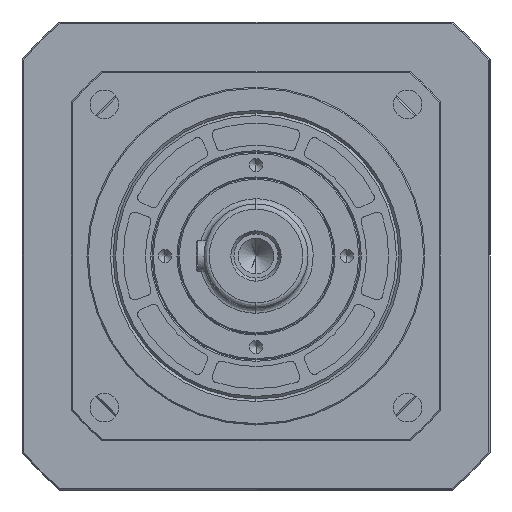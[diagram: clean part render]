
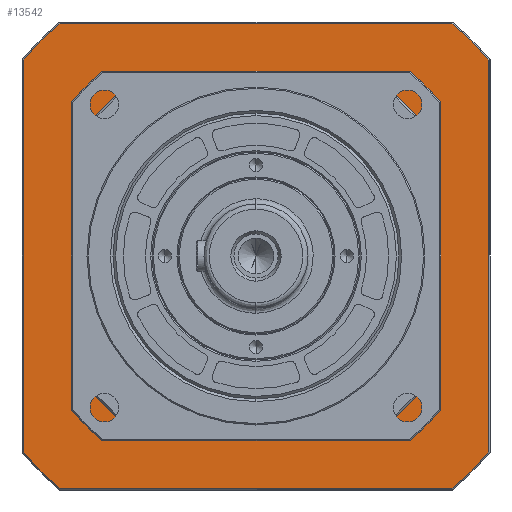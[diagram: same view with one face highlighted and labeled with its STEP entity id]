
A CAD part, left-side view. The second image highlights one B-rep face of the part: STEP entity #13542.
In plain terms, the highlighted planar face has unit normal (-1, 0, 0).
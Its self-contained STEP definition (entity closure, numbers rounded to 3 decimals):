
#399 = CARTESIAN_POINT ( 'NONE',  ( 0., 0., -63. ) ) ;
#1054 = AXIS2_PLACEMENT_3D ( 'NONE', #18819, #15720, #15652 ) ;
#1110 = VECTOR ( 'NONE', #2402, 1000. ) ;
#1215 = PLANE ( 'NONE',  #4472 ) ;
#1338 = DIRECTION ( 'NONE',  ( 1., 0., 0. ) ) ;
#1515 = EDGE_CURVE ( 'NONE', #12077, #11573, #17968, .T. ) ;
#1528 = LINE ( 'NONE', #19096, #9620 ) ;
#1639 = EDGE_CURVE ( 'NONE', #18547, #7468, #14431, .T. ) ;
#1847 = VERTEX_POINT ( 'NONE', #399 ) ;
#1963 = AXIS2_PLACEMENT_3D ( 'NONE', #10053, #14632, #2479 ) ;
#2286 = DIRECTION ( 'NONE',  ( 0., -1., 0. ) ) ;
#2331 = VERTEX_POINT ( 'NONE', #16119 ) ;
#2380 = CIRCLE ( 'NONE', #7528, 63. ) ;
#2402 = DIRECTION ( 'NONE',  ( 0., 0., -1. ) ) ;
#2479 = DIRECTION ( 'NONE',  ( 0., 0., 1. ) ) ;
#2869 = DIRECTION ( 'NONE',  ( 0., 0., 1. ) ) ;
#3196 = EDGE_LOOP ( 'NONE', ( #9366, #17588 ) ) ;
#3368 = CARTESIAN_POINT ( 'NONE',  ( 0., 75.357, -89.5 ) ) ;
#3477 = ORIENTED_EDGE ( 'NONE', *, *, #1639, .F. ) ;
#4427 = VERTEX_POINT ( 'NONE', #19345 ) ;
#4472 = AXIS2_PLACEMENT_3D ( 'NONE', #10117, #7254, #8655 ) ;
#5018 = VECTOR ( 'NONE', #2286, 1000. ) ;
#5294 = VECTOR ( 'NONE', #17555, 1000. ) ;
#5449 = EDGE_CURVE ( 'NONE', #19604, #6011, #17519, .T. ) ;
#5644 = AXIS2_PLACEMENT_3D ( 'NONE', #16408, #1338, #13250 ) ;
#5880 = LINE ( 'NONE', #17612, #1110 ) ;
#6011 = VERTEX_POINT ( 'NONE', #9521 ) ;
#6068 = CARTESIAN_POINT ( 'NONE',  ( 0., -75.357, -89.5 ) ) ;
#7254 = DIRECTION ( 'NONE',  ( -1., 0., 0. ) ) ;
#7456 = DIRECTION ( 'NONE',  ( 1., 0., 0. ) ) ;
#7468 = VERTEX_POINT ( 'NONE', #6068 ) ;
#7528 = AXIS2_PLACEMENT_3D ( 'NONE', #16689, #7456, #2869 ) ;
#7615 = FACE_OUTER_BOUND ( 'NONE', #10423, .T. ) ;
#7863 = FACE_BOUND ( 'NONE', #3196, .T. ) ;
#8480 = DIRECTION ( 'NONE',  ( 0., 1., 0. ) ) ;
#8638 = ORIENTED_EDGE ( 'NONE', *, *, #9937, .F. ) ;
#8655 = DIRECTION ( 'NONE',  ( 0., 0., 1. ) ) ;
#9009 = CIRCLE ( 'NONE', #16498, 117. ) ;
#9051 = CARTESIAN_POINT ( 'NONE',  ( 0., 0., 0. ) ) ;
#9366 = ORIENTED_EDGE ( 'NONE', *, *, #15687, .T. ) ;
#9442 = AXIS2_PLACEMENT_3D ( 'NONE', #9051, #18193, #15017 ) ;
#9521 = CARTESIAN_POINT ( 'NONE',  ( 0., -75.357, 89.5 ) ) ;
#9620 = VECTOR ( 'NONE', #8480, 1000. ) ;
#9794 = LINE ( 'NONE', #13133, #5294 ) ;
#9937 = EDGE_CURVE ( 'NONE', #4427, #19604, #11041, .T. ) ;
#10029 = EDGE_CURVE ( 'NONE', #7468, #12077, #1528, .T. ) ;
#10053 = CARTESIAN_POINT ( 'NONE',  ( 0., 0., 0. ) ) ;
#10117 = CARTESIAN_POINT ( 'NONE',  ( 0., 90., -90. ) ) ;
#10423 = EDGE_LOOP ( 'NONE', ( #12391, #8638, #14997, #17192, #12744, #3477, #11369, #17084 ) ) ;
#11041 = CIRCLE ( 'NONE', #1054, 117. ) ;
#11369 = ORIENTED_EDGE ( 'NONE', *, *, #15756, .F. ) ;
#11573 = VERTEX_POINT ( 'NONE', #15521 ) ;
#11628 = CARTESIAN_POINT ( 'NONE',  ( 0., -90., 89.5 ) ) ;
#11745 = CARTESIAN_POINT ( 'NONE',  ( 0., 75.357, 89.5 ) ) ;
#11990 = CARTESIAN_POINT ( 'NONE',  ( 0., -89.5, -75.357 ) ) ;
#12077 = VERTEX_POINT ( 'NONE', #3368 ) ;
#12391 = ORIENTED_EDGE ( 'NONE', *, *, #5449, .F. ) ;
#12631 = CARTESIAN_POINT ( 'NONE',  ( 0., 0., 63. ) ) ;
#12744 = ORIENTED_EDGE ( 'NONE', *, *, #10029, .F. ) ;
#12820 = CARTESIAN_POINT ( 'NONE',  ( 0., 0., 0. ) ) ;
#13133 = CARTESIAN_POINT ( 'NONE',  ( 0., 89.5, 90. ) ) ;
#13250 = DIRECTION ( 'NONE',  ( 0., 0., -1. ) ) ;
#13542 = ADVANCED_FACE ( 'NONE', ( #7863, #7615 ), #1215, .T. ) ;
#13628 = EDGE_CURVE ( 'NONE', #1847, #16637, #2380, .T. ) ;
#14142 = CIRCLE ( 'NONE', #1963, 63. ) ;
#14431 = CIRCLE ( 'NONE', #9442, 117. ) ;
#14454 = EDGE_CURVE ( 'NONE', #6011, #2331, #9009, .T. ) ;
#14632 = DIRECTION ( 'NONE',  ( 1., 0., 0. ) ) ;
#14997 = ORIENTED_EDGE ( 'NONE', *, *, #19583, .F. ) ;
#15017 = DIRECTION ( 'NONE',  ( 0., 0., -1. ) ) ;
#15521 = CARTESIAN_POINT ( 'NONE',  ( 0., 89.5, -75.357 ) ) ;
#15652 = DIRECTION ( 'NONE',  ( 0., 0., -1. ) ) ;
#15687 = EDGE_CURVE ( 'NONE', #16637, #1847, #14142, .T. ) ;
#15720 = DIRECTION ( 'NONE',  ( 1., 0., 0. ) ) ;
#15756 = EDGE_CURVE ( 'NONE', #2331, #18547, #5880, .T. ) ;
#15839 = DIRECTION ( 'NONE',  ( 0., 0., -1. ) ) ;
#16119 = CARTESIAN_POINT ( 'NONE',  ( 0., -89.5, 75.357 ) ) ;
#16408 = CARTESIAN_POINT ( 'NONE',  ( 0., 0., 0. ) ) ;
#16498 = AXIS2_PLACEMENT_3D ( 'NONE', #12820, #17193, #15839 ) ;
#16637 = VERTEX_POINT ( 'NONE', #12631 ) ;
#16689 = CARTESIAN_POINT ( 'NONE',  ( 0., 0., 0. ) ) ;
#17084 = ORIENTED_EDGE ( 'NONE', *, *, #14454, .F. ) ;
#17192 = ORIENTED_EDGE ( 'NONE', *, *, #1515, .F. ) ;
#17193 = DIRECTION ( 'NONE',  ( 1., 0., 0. ) ) ;
#17519 = LINE ( 'NONE', #11628, #5018 ) ;
#17555 = DIRECTION ( 'NONE',  ( 0., 0., 1. ) ) ;
#17588 = ORIENTED_EDGE ( 'NONE', *, *, #13628, .T. ) ;
#17612 = CARTESIAN_POINT ( 'NONE',  ( 0., -89.5, 90. ) ) ;
#17968 = CIRCLE ( 'NONE', #5644, 117. ) ;
#18193 = DIRECTION ( 'NONE',  ( 1., 0., 0. ) ) ;
#18547 = VERTEX_POINT ( 'NONE', #11990 ) ;
#18819 = CARTESIAN_POINT ( 'NONE',  ( 0., 0., 0. ) ) ;
#19096 = CARTESIAN_POINT ( 'NONE',  ( 0., -90., -89.5 ) ) ;
#19345 = CARTESIAN_POINT ( 'NONE',  ( 0., 89.5, 75.357 ) ) ;
#19583 = EDGE_CURVE ( 'NONE', #11573, #4427, #9794, .T. ) ;
#19604 = VERTEX_POINT ( 'NONE', #11745 ) ;
